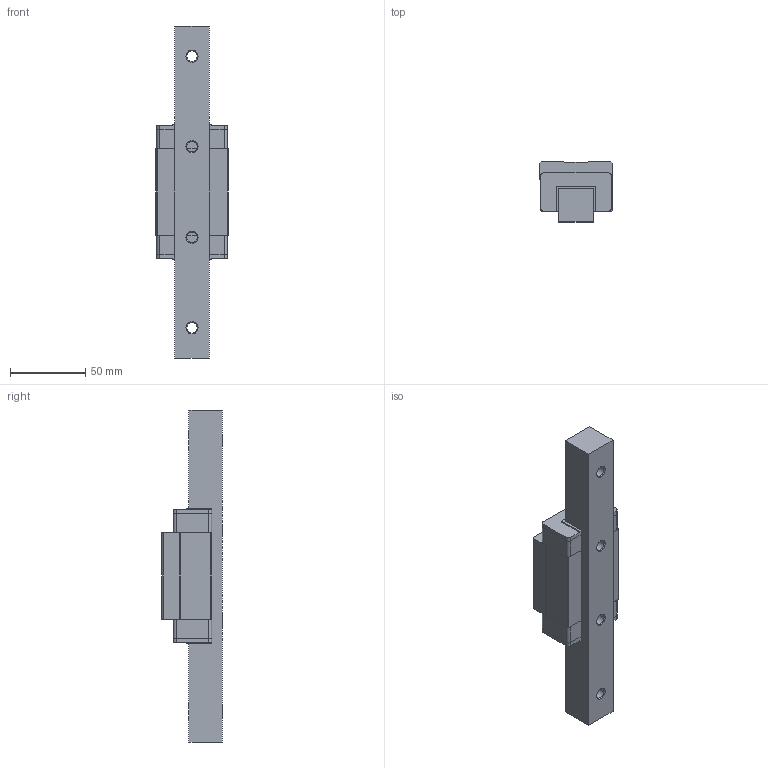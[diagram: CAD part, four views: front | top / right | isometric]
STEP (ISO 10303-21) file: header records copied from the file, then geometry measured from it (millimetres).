
FILE_DESCRIPTION( ( 'STEP File Generated from CADKEY Workshop EX' ), '1' );
FILE_NAME( 'Part1', '2004-11-06T00:12:14', ( 'CADKEY USER' ), ( 'CADKEY CORPORATION' ), 'ACIS Interop R11 SP4', 'CADKEY Workshop EX V21.05.02 (0359)', 'CK' );
FILE_SCHEMA( ( 'CONFIG_CONTROL_DESIGN' ) );
Length unit declared in the file: millimetre
Products named in the file (6): 1; 2; 3; 4; 5; 6
Bounding box: 48 x 40 x 220 mm (x, y, z)
Volume: 201087.9 mm3; surface area: 48979.6 mm2
Topology: 6 solids, 6 shells, 138 faces, 338 edges, 220 vertices
Faces by surface type: plane 82, cylinder 40, cone 16
Entity records: 4331 total; most frequent: DIRECTION 722, CARTESIAN_POINT 702, ORIENTED_EDGE 676, EDGE_CURVE 338, LINE 242, VECTOR 242, AXIS2_PLACEMENT_3D 240, VERTEX_POINT 220
